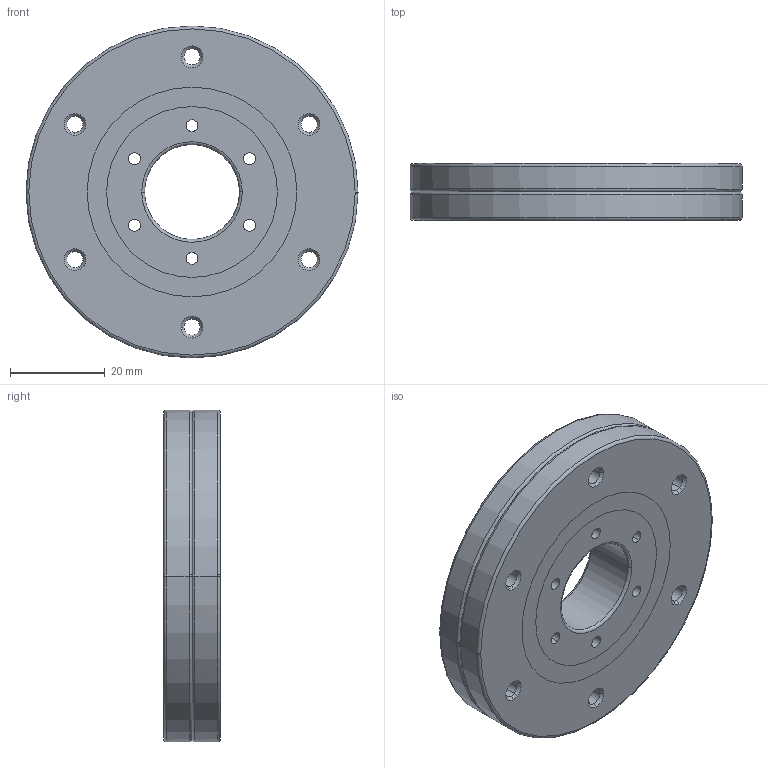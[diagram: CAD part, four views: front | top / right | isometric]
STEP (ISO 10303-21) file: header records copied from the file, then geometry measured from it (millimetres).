
FILE_DESCRIPTION(('no description'),'unknown implementation level');
FILE_NAME('CRBD02012A_39.stp',' ',('HIWIN GmbH'),('CADClick - KiM GmbH - www.kimweb.de'),'unknown preprocess','ACIS','unknown authorization');
FILE_SCHEMA(('automotive_design'));
Length unit declared in the file: millimetre
Products named in the file (23): CRBD02012A_1; CRBD02012A_2; CRBD02012A_3; CRBD02012A_4; CRBD02012A_5; CRBD02012A_6; CRBD02012A_7; CRBD02012A_8; CRBD02012A_9; CRBD02012A_10; CRBD02012A_11; CRBD02012A_12; CRBD02012A_13; CRBD02012A_14; CRBD02012A_15; CRBD02012A_16; CRBD02012A_17; CRBD02012A_18; CRBD02012A_19; CRBD02012A_20; CRBD02012A_21; CRBD02012A_22; CRBD02012A
Bounding box: 70 x 12 x 70 mm (x, y, z)
Volume: 35622.4 mm3; surface area: 20894.3 mm2
Topology: 5 solids, 23 shells, 222 faces, 576 edges, 388 vertices
Faces by surface type: cone 96, cylinder 80, torus 24, plane 22
Entity records: 13519 total; most frequent: DIRECTION 1454, CARTESIAN_POINT 1209, ORIENTED_EDGE 1080, STYLED_ITEM 1065, PRESENTATION_STYLE_ASSIGNMENT 1065, COLOUR_RGB 1065, AXIS2_PLACEMENT_3D 633, EDGE_CURVE 576
